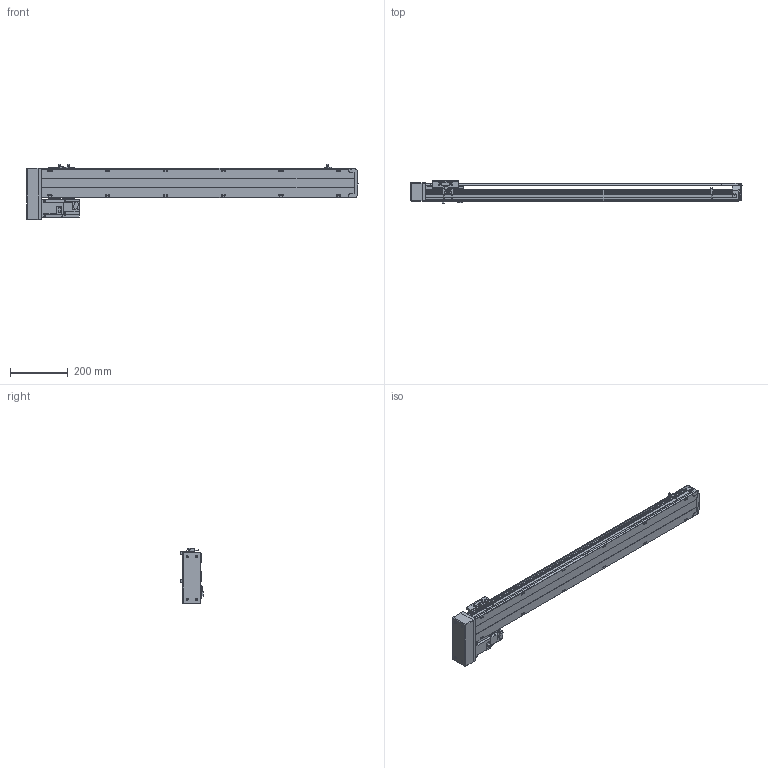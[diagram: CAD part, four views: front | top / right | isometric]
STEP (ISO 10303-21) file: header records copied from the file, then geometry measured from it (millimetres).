
FILE_DESCRIPTION( ( 'STEP AP214' ), '1' );
FILE_NAME( 'x:/temp/worker_27/temp/exporttempdir_6708_105_JhYAO/format_0/PSS120-L10-S900-BR-T40-C1-N(0).stp', '2022-06-06T00:30:58', ( 'License CC BY-ND 4.0' ), ( 'CADENAS' ), ' ', 'PARTsolutions', ' ' );
FILE_SCHEMA( ( 'AUTOMOTIVE_DESIGN { 1 0 10303 214 1 1 1 1 }' ) );
Length unit declared in the file: millimetre
Products named in the file (8): PSS120-L10-S900-BR-T40-C1-N(0); _PSS120-S900-BR-C1-N_body; _PSS120-N_Q; _PSS120-BR-C1-N_sl; _PSS120-N_sensor; _PSS120BR-N_h; _T40-p1; _PSS120-S900-BR-N_S
Assembly tree (9 placements, depth 2):
  PSS120-L10-S900-BR-T40-C1-N(0)
    _PSS120-S900-BR-C1-N_body
    _PSS120-N_Q
    _PSS120-BR-C1-N_sl
    _PSS120-N_sensor  x3
    _PSS120BR-N_h
    _T40-p1
    _PSS120-S900-BR-N_S
Bounding box: 1149.35 x 76.8 x 191.2 mm (x, y, z)
Volume: 4420384.4 mm3; surface area: 747497.2 mm2
Topology: 9 solids, 9 shells, 848 faces, 2269 edges, 1500 vertices
Faces by surface type: plane 595, cylinder 229, cone 20, sphere 4
Full cylindrical faces by diameter (mm): 2.8 x3, 4 x4, 4.134 x16, 4.4 x2, 4.5 x4, 4.6 x3, 5 x6, 5.5 x19, 7 x2, 7.4 x4, 8 x4, 8.5 x16, 14 x1, 28 x1, 32 x2, 50 x1
Entity records: 29077 total; most frequent: CARTESIAN_POINT 4491, DIRECTION 3803, ORIENTED_EDGE 3706, EDGE_CURVE 1853, LINE 1323, VECTOR 1323, VERTEX_POINT 1284, AXIS2_PLACEMENT_3D 1240
